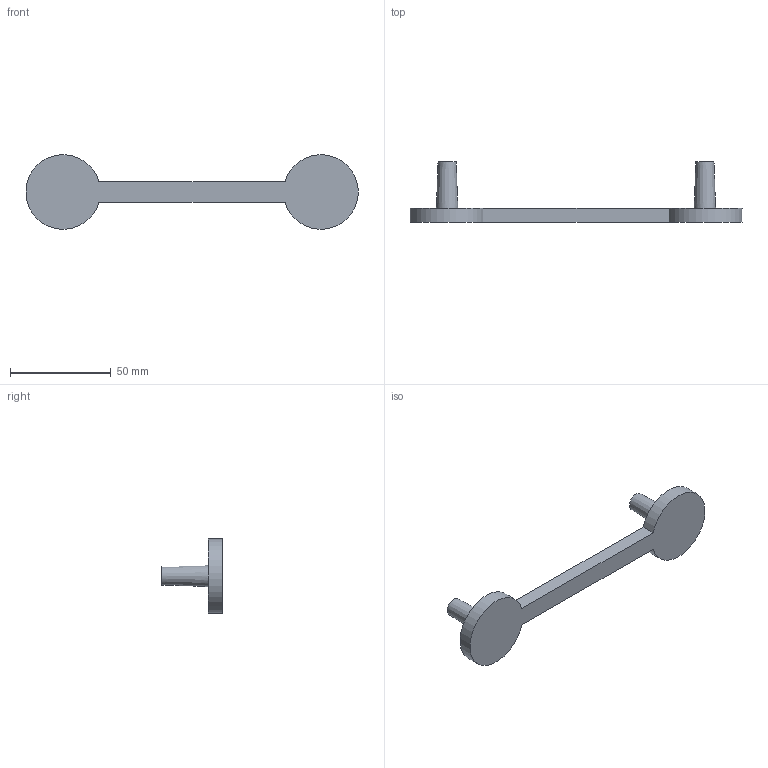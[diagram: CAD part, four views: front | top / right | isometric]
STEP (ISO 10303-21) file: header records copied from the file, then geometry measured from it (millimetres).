
FILE_DESCRIPTION( ( 'STEP AP214' ), '1' );
FILE_NAME( 'D:/Yug/2020/ProDecor_2020/QC/9266417.stp', '2020-06-01T11:18:06', ( '' ), ( '' ), ' ', 'PARTsolutions', ' ' );
FILE_SCHEMA( ( 'AUTOMOTIVE_DESIGN { 1 0 10303 214 1 1 1 1 }' ) );
Length unit declared in the file: millimetre
Products named in the file (1): _9266417
Bounding box: 164.86 x 30 x 36.88 mm (x, y, z)
Volume: 24733.5 mm3; surface area: 10478 mm2
Topology: 1 solids, 1 shells, 14 faces, 26 edges, 18 vertices
Faces by surface type: plane 8, cylinder 4, cone 2
Full cylindrical faces by diameter (mm): 4 x2
Entity records: 448 total; most frequent: DIRECTION 62, CARTESIAN_POINT 51, ORIENTED_EDGE 40, AXIS2_PLACEMENT_3D 27, EDGE_LOOP 22, EDGE_CURVE 20, FACE_OUTER_BOUND 16, VERTEX_POINT 16
